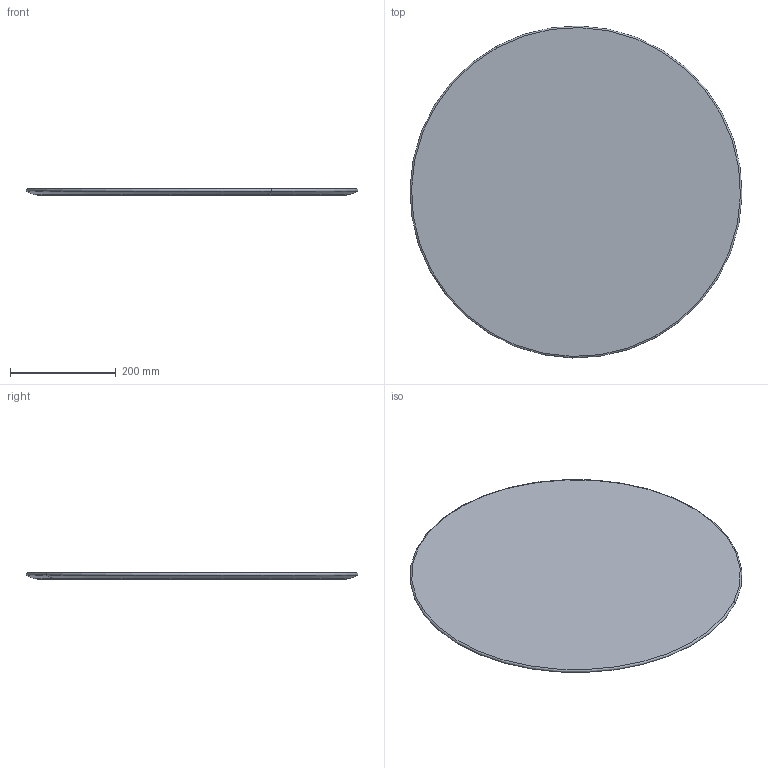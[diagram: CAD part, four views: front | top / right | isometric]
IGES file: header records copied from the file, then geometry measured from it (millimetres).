
Start section: START RECORD GO HERE.
Global section: file name: Fura Table _ top _ design Form Us With Love.igs; native system: DASSAULT SYSTEMES CATIA Version 5-6 Release 2012 - www.3ds.com; preprocessor: V5-6R2012_5.22.4.0.11-16-2012.22.00; author: alberto_brogliato; organization: DOMAIN; date: 20140205.093245; units: millimetre
Bounding box: 629.18 x 629.18 x 12 mm (x, y, z)
Surface area: 631333 mm2 (no closed solid volume)
Topology: 0 solids, 0 shells, 17 faces, 64 edges, 64 vertices
Faces by surface type: revolution 12, plane 5
